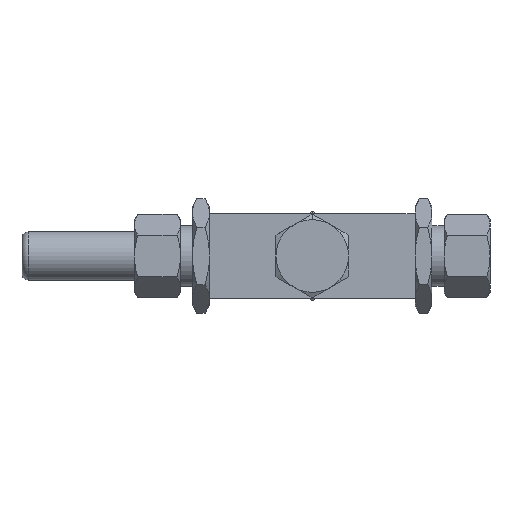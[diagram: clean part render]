
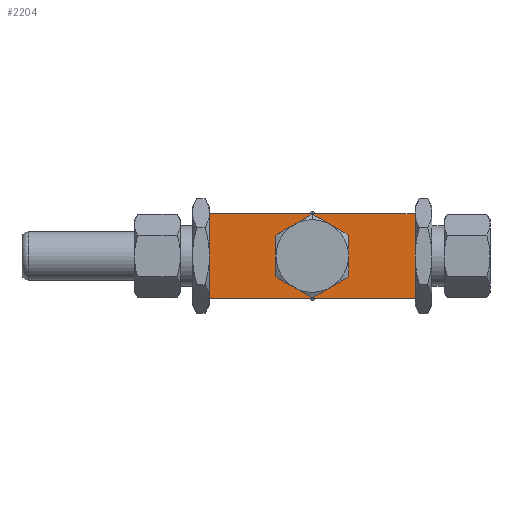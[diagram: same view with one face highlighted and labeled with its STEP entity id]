
A CAD part, front view. The second image highlights one B-rep face of the part: STEP entity #2204.
In plain terms, the highlighted planar face has unit normal (0, -1, 0).
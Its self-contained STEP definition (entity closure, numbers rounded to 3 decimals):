
#51 = DIRECTION ( 'NONE',  ( 0., 0., -1. ) ) ;
#156 = LINE ( 'NONE', #2185, #5522 ) ;
#352 = EDGE_CURVE ( 'NONE', #6308, #5230, #847, .T. ) ;
#386 = CARTESIAN_POINT ( 'NONE',  ( 0., -32.5, 0. ) ) ;
#535 = CARTESIAN_POINT ( 'NONE',  ( -7.5, -32.5, -12.99 ) ) ;
#615 = VERTEX_POINT ( 'NONE', #4478 ) ;
#630 = VERTEX_POINT ( 'NONE', #535 ) ;
#644 = DIRECTION ( 'NONE',  ( 1., 0., 0. ) ) ;
#671 = DIRECTION ( 'NONE',  ( 0., 0., -1. ) ) ;
#757 = EDGE_CURVE ( 'NONE', #4367, #2646, #5209, .T. ) ;
#847 = CIRCLE ( 'NONE', #4253, 15. ) ;
#896 = DIRECTION ( 'NONE',  ( 0., 0., -1. ) ) ;
#956 = AXIS2_PLACEMENT_3D ( 'NONE', #3346, #5354, #2019 ) ;
#1167 = VECTOR ( 'NONE', #5682, 1000. ) ;
#1204 = VERTEX_POINT ( 'NONE', #6380 ) ;
#1242 = DIRECTION ( 'NONE',  ( 0., -1., 0. ) ) ;
#1336 = DIRECTION ( 'NONE',  ( 0., 0., -1. ) ) ;
#1409 = ORIENTED_EDGE ( 'NONE', *, *, #3091, .F. ) ;
#1450 = DIRECTION ( 'NONE',  ( 0., -1., 0. ) ) ;
#1496 = EDGE_CURVE ( 'NONE', #2646, #2285, #156, .T. ) ;
#1529 = ORIENTED_EDGE ( 'NONE', *, *, #3260, .F. ) ;
#1722 = DIRECTION ( 'NONE',  ( 0., 0., 1. ) ) ;
#1743 = CARTESIAN_POINT ( 'NONE',  ( -42.5, -32.5, 17.5 ) ) ;
#1756 = CARTESIAN_POINT ( 'NONE',  ( -42.5, -32.5, 17.5 ) ) ;
#1879 = ORIENTED_EDGE ( 'NONE', *, *, #352, .F. ) ;
#2019 = DIRECTION ( 'NONE',  ( 0., 0., -1. ) ) ;
#2180 = LINE ( 'NONE', #3075, #6422 ) ;
#2185 = CARTESIAN_POINT ( 'NONE',  ( -42.5, -32.5, -17.5 ) ) ;
#2204 = ADVANCED_FACE ( 'NONE', ( #2756, #5676 ), #2657, .F. ) ;
#2221 = DIRECTION ( 'NONE',  ( 1., 0., 0. ) ) ;
#2274 = DIRECTION ( 'NONE',  ( 0., -1., 0. ) ) ;
#2285 = VERTEX_POINT ( 'NONE', #6446 ) ;
#2290 = VERTEX_POINT ( 'NONE', #2794 ) ;
#2346 = ORIENTED_EDGE ( 'NONE', *, *, #5138, .F. ) ;
#2449 = CARTESIAN_POINT ( 'NONE',  ( 7.5, -32.5, -12.99 ) ) ;
#2480 = DIRECTION ( 'NONE',  ( 0., -1., 0. ) ) ;
#2528 = VERTEX_POINT ( 'NONE', #4237 ) ;
#2639 = DIRECTION ( 'NONE',  ( 0., -1., 0. ) ) ;
#2641 = CIRCLE ( 'NONE', #4734, 15. ) ;
#2646 = VERTEX_POINT ( 'NONE', #5916 ) ;
#2657 = PLANE ( 'NONE',  #6365 ) ;
#2744 = AXIS2_PLACEMENT_3D ( 'NONE', #386, #1450, #2990 ) ;
#2756 = FACE_OUTER_BOUND ( 'NONE', #6290, .T. ) ;
#2763 = ORIENTED_EDGE ( 'NONE', *, *, #4544, .F. ) ;
#2794 = CARTESIAN_POINT ( 'NONE',  ( -7.5, -32.5, 12.99 ) ) ;
#2837 = AXIS2_PLACEMENT_3D ( 'NONE', #5279, #1242, #1336 ) ;
#2898 = EDGE_CURVE ( 'NONE', #2929, #630, #2641, .T. ) ;
#2929 = VERTEX_POINT ( 'NONE', #4995 ) ;
#2990 = DIRECTION ( 'NONE',  ( 0., 0., -1. ) ) ;
#3022 = CARTESIAN_POINT ( 'NONE',  ( 0., -32.5, 0. ) ) ;
#3075 = CARTESIAN_POINT ( 'NONE',  ( 42.5, -32.5, 17.5 ) ) ;
#3091 = EDGE_CURVE ( 'NONE', #5230, #1204, #6327, .T. ) ;
#3121 = EDGE_CURVE ( 'NONE', #2290, #2929, #3705, .T. ) ;
#3146 = ORIENTED_EDGE ( 'NONE', *, *, #757, .T. ) ;
#3170 = AXIS2_PLACEMENT_3D ( 'NONE', #3022, #5990, #6057 ) ;
#3260 = EDGE_CURVE ( 'NONE', #1204, #2290, #4125, .T. ) ;
#3346 = CARTESIAN_POINT ( 'NONE',  ( 0., -32.5, 0. ) ) ;
#3705 = CIRCLE ( 'NONE', #2744, 15. ) ;
#3748 = CARTESIAN_POINT ( 'NONE',  ( 15., -32.5, 0. ) ) ;
#3763 = CIRCLE ( 'NONE', #4789, 15. ) ;
#3833 = CIRCLE ( 'NONE', #956, 15. ) ;
#4125 = CIRCLE ( 'NONE', #2837, 15. ) ;
#4170 = ORIENTED_EDGE ( 'NONE', *, *, #4500, .F. ) ;
#4237 = CARTESIAN_POINT ( 'NONE',  ( 42.5, -32.5, 17.5 ) ) ;
#4252 = ORIENTED_EDGE ( 'NONE', *, *, #3121, .F. ) ;
#4253 = AXIS2_PLACEMENT_3D ( 'NONE', #5212, #2274, #671 ) ;
#4273 = EDGE_LOOP ( 'NONE', ( #1529, #1409, #1879, #4293, #2346, #5802, #4252 ) ) ;
#4293 = ORIENTED_EDGE ( 'NONE', *, *, #6270, .F. ) ;
#4367 = VERTEX_POINT ( 'NONE', #1743 ) ;
#4478 = CARTESIAN_POINT ( 'NONE',  ( 0., -32.5, -15. ) ) ;
#4500 = EDGE_CURVE ( 'NONE', #4367, #2528, #5216, .T. ) ;
#4544 = EDGE_CURVE ( 'NONE', #2528, #2285, #2180, .T. ) ;
#4627 = VECTOR ( 'NONE', #644, 1000. ) ;
#4734 = AXIS2_PLACEMENT_3D ( 'NONE', #5659, #2639, #51 ) ;
#4753 = DIRECTION ( 'NONE',  ( 0., 1., 0. ) ) ;
#4789 = AXIS2_PLACEMENT_3D ( 'NONE', #5451, #2480, #896 ) ;
#4995 = CARTESIAN_POINT ( 'NONE',  ( -15., -32.5, 0. ) ) ;
#5138 = EDGE_CURVE ( 'NONE', #630, #615, #3763, .T. ) ;
#5209 = LINE ( 'NONE', #1756, #1167 ) ;
#5212 = CARTESIAN_POINT ( 'NONE',  ( 0., -32.5, 0. ) ) ;
#5216 = LINE ( 'NONE', #5660, #4627 ) ;
#5230 = VERTEX_POINT ( 'NONE', #3748 ) ;
#5279 = CARTESIAN_POINT ( 'NONE',  ( 0., -32.5, 0. ) ) ;
#5354 = DIRECTION ( 'NONE',  ( 0., -1., 0. ) ) ;
#5451 = CARTESIAN_POINT ( 'NONE',  ( 0., -32.5, 0. ) ) ;
#5522 = VECTOR ( 'NONE', #2221, 1000. ) ;
#5659 = CARTESIAN_POINT ( 'NONE',  ( 0., -32.5, 0. ) ) ;
#5660 = CARTESIAN_POINT ( 'NONE',  ( -42.5, -32.5, 17.5 ) ) ;
#5676 = FACE_BOUND ( 'NONE', #4273, .T. ) ;
#5682 = DIRECTION ( 'NONE',  ( 0., 0., -1. ) ) ;
#5727 = DIRECTION ( 'NONE',  ( 0., 0., -1. ) ) ;
#5802 = ORIENTED_EDGE ( 'NONE', *, *, #2898, .F. ) ;
#5916 = CARTESIAN_POINT ( 'NONE',  ( -42.5, -32.5, -17.5 ) ) ;
#5990 = DIRECTION ( 'NONE',  ( 0., -1., 0. ) ) ;
#6057 = DIRECTION ( 'NONE',  ( 0., 0., -1. ) ) ;
#6163 = CARTESIAN_POINT ( 'NONE',  ( -42.5, -32.5, 17.5 ) ) ;
#6270 = EDGE_CURVE ( 'NONE', #615, #6308, #3833, .T. ) ;
#6290 = EDGE_LOOP ( 'NONE', ( #6404, #2763, #4170, #3146 ) ) ;
#6308 = VERTEX_POINT ( 'NONE', #2449 ) ;
#6327 = CIRCLE ( 'NONE', #3170, 15. ) ;
#6365 = AXIS2_PLACEMENT_3D ( 'NONE', #6163, #4753, #1722 ) ;
#6380 = CARTESIAN_POINT ( 'NONE',  ( 7.5, -32.5, 12.99 ) ) ;
#6404 = ORIENTED_EDGE ( 'NONE', *, *, #1496, .T. ) ;
#6422 = VECTOR ( 'NONE', #5727, 1000. ) ;
#6446 = CARTESIAN_POINT ( 'NONE',  ( 42.5, -32.5, -17.5 ) ) ;
